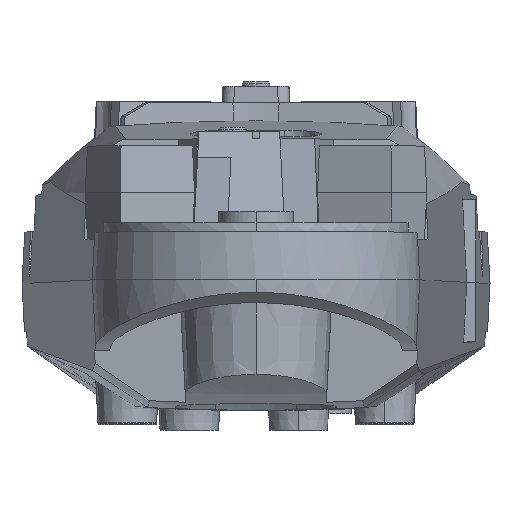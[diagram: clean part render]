
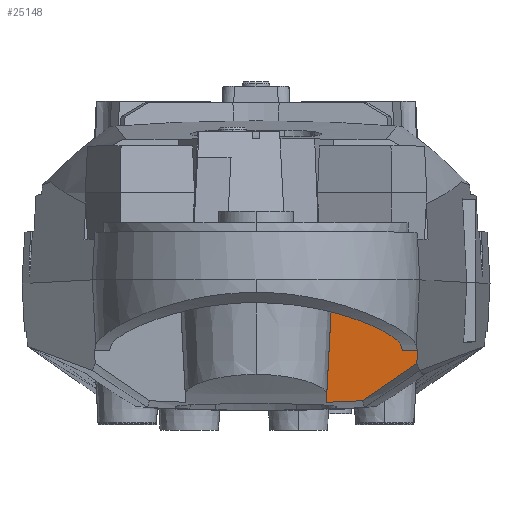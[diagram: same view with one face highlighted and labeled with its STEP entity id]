
A CAD part, top view. The second image highlights one B-rep face of the part: STEP entity #25148.
In plain terms, the highlighted planar face has unit normal (0, -0.052, 0.999).
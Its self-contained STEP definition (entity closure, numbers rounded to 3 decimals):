
#692 = CARTESIAN_POINT ( 'NONE',  ( 195.449, -226.019, 1327.588 ) ) ;
#902 = DIRECTION ( 'NONE',  ( 0.052, 0.997, 0.052 ) ) ;
#1049 = ORIENTED_EDGE ( 'NONE', *, *, #12778, .T. ) ;
#1838 = VERTEX_POINT ( 'NONE', #29710 ) ;
#2004 = ORIENTED_EDGE ( 'NONE', *, *, #8026, .F. ) ;
#2032 = ORIENTED_EDGE ( 'NONE', *, *, #3314, .F. ) ;
#2621 = CARTESIAN_POINT ( 'NONE',  ( 182.5, -204.528, 1328.715 ) ) ;
#2706 = LINE ( 'NONE', #21628, #15265 ) ;
#3079 = EDGE_LOOP ( 'NONE', ( #4076, #1049, #2004, #2032, #22931, #25939, #5145 ) ) ;
#3314 = EDGE_CURVE ( 'NONE', #9920, #6344, #19926, .T. ) ;
#3669 = EDGE_CURVE ( 'NONE', #18971, #1838, #17774, .T. ) ;
#3722 = CARTESIAN_POINT ( 'NONE',  ( 218.718, -210.127, 1328.421 ) ) ;
#4076 = ORIENTED_EDGE ( 'NONE', *, *, #25077, .F. ) ;
#4159 = CARTESIAN_POINT ( 'NONE',  ( 182.5, -180., 1330. ) ) ;
#5145 = ORIENTED_EDGE ( 'NONE', *, *, #3669, .F. ) ;
#6344 = VERTEX_POINT ( 'NONE', #14019 ) ;
#7427 = CARTESIAN_POINT ( 'NONE',  ( 219.002, -204.528, 1328.715 ) ) ;
#8026 = EDGE_CURVE ( 'NONE', #6344, #14645, #8522, .T. ) ;
#8212 = PLANE ( 'NONE',  #14581 ) ;
#8367 = FACE_OUTER_BOUND ( 'NONE', #3079, .T. ) ;
#8430 = CARTESIAN_POINT ( 'NONE',  ( 195.449, -226.019, 1327.588 ) ) ;
#8522 = B_SPLINE_CURVE_WITH_KNOTS ( 'NONE', 3,
 ( #3722, #15472, #22438, #8430 ),
 .UNSPECIFIED., .F., .F.,
 ( 4, 4 ),
 ( 0., 1. ),
 .UNSPECIFIED. ) ;
#8677 = CARTESIAN_POINT ( 'NONE',  ( 212.57, -204.528, 1328.715 ) ) ;
#9850 = VECTOR ( 'NONE', #902, 1000. ) ;
#9920 = VERTEX_POINT ( 'NONE', #7427 ) ;
#11656 = CARTESIAN_POINT ( 'NONE',  ( 219.002, -204.528, 1328.715 ) ) ;
#11951 = CARTESIAN_POINT ( 'NONE',  ( 195.449, -226.019, 1327.588 ) ) ;
#12778 = EDGE_CURVE ( 'NONE', #15513, #14645, #26626, .T. ) ;
#12969 = LINE ( 'NONE', #2621, #24486 ) ;
#13266 = DIRECTION ( 'NONE',  ( 0., 0.999, 0.052 ) ) ;
#13494 = DIRECTION ( 'NONE',  ( 1., 0., 0. ) ) ;
#14019 = CARTESIAN_POINT ( 'NONE',  ( 218.718, -210.127, 1328.421 ) ) ;
#14581 = AXIS2_PLACEMENT_3D ( 'NONE', #24722, #26910, #13266 ) ;
#14645 = VERTEX_POINT ( 'NONE', #11951 ) ;
#14953 = CARTESIAN_POINT ( 'NONE',  ( 190.321, -226.279, 1327.575 ) ) ;
#15007 = EDGE_CURVE ( 'NONE', #1838, #23753, #2706, .T. ) ;
#15265 = VECTOR ( 'NONE', #17276, 1000. ) ;
#15472 = CARTESIAN_POINT ( 'NONE',  ( 211.495, -215.698, 1328.129 ) ) ;
#15513 = VERTEX_POINT ( 'NONE', #28389 ) ;
#17276 = DIRECTION ( 'NONE',  ( 0.054, -0.997, -0.052 ) ) ;
#17520 = CARTESIAN_POINT ( 'NONE',  ( 180.054, -226.666, 1327.554 ) ) ;
#17560 = EDGE_CURVE ( 'NONE', #23753, #9920, #12969, .T. ) ;
#17774 = LINE ( 'NONE', #29148, #22143 ) ;
#18971 = VERTEX_POINT ( 'NONE', #4159 ) ;
#19566 = CARTESIAN_POINT ( 'NONE',  ( 185.19, -226.494, 1327.563 ) ) ;
#19926 = LINE ( 'NONE', #11656, #19997 ) ;
#19997 = VECTOR ( 'NONE', #29872, 1000. ) ;
#21424 = DIRECTION ( 'NONE',  ( 1., 0., 0. ) ) ;
#21628 = CARTESIAN_POINT ( 'NONE',  ( 211.241, -180., 1330. ) ) ;
#22143 = VECTOR ( 'NONE', #13494, 1000. ) ;
#22438 = CARTESIAN_POINT ( 'NONE',  ( 203.731, -221.037, 1327.849 ) ) ;
#22931 = ORIENTED_EDGE ( 'NONE', *, *, #17560, .F. ) ;
#23753 = VERTEX_POINT ( 'NONE', #8677 ) ;
#24074 = CARTESIAN_POINT ( 'NONE',  ( 180.054, -226.666, 1327.554 ) ) ;
#24486 = VECTOR ( 'NONE', #21424, 1000. ) ;
#24722 = CARTESIAN_POINT ( 'NONE',  ( 182.5, -180., 1330. ) ) ;
#25077 = EDGE_CURVE ( 'NONE', #15513, #18971, #28098, .T. ) ;
#25148 = ADVANCED_FACE ( 'NONE', ( #8367 ), #8212, .F. ) ;
#25939 = ORIENTED_EDGE ( 'NONE', *, *, #15007, .F. ) ;
#26626 = B_SPLINE_CURVE_WITH_KNOTS ( 'NONE', 3,
 ( #24074, #19566, #14953, #692 ),
 .UNSPECIFIED., .F., .F.,
 ( 4, 4 ),
 ( 0., 1. ),
 .UNSPECIFIED. ) ;
#26910 = DIRECTION ( 'NONE',  ( 0., 0.052, -0.999 ) ) ;
#28098 = LINE ( 'NONE', #17520, #9850 ) ;
#28389 = CARTESIAN_POINT ( 'NONE',  ( 180.054, -226.666, 1327.554 ) ) ;
#29148 = CARTESIAN_POINT ( 'NONE',  ( 182.5, -180., 1330. ) ) ;
#29710 = CARTESIAN_POINT ( 'NONE',  ( 211.241, -180., 1330. ) ) ;
#29872 = DIRECTION ( 'NONE',  ( -0.051, -0.997, -0.052 ) ) ;
